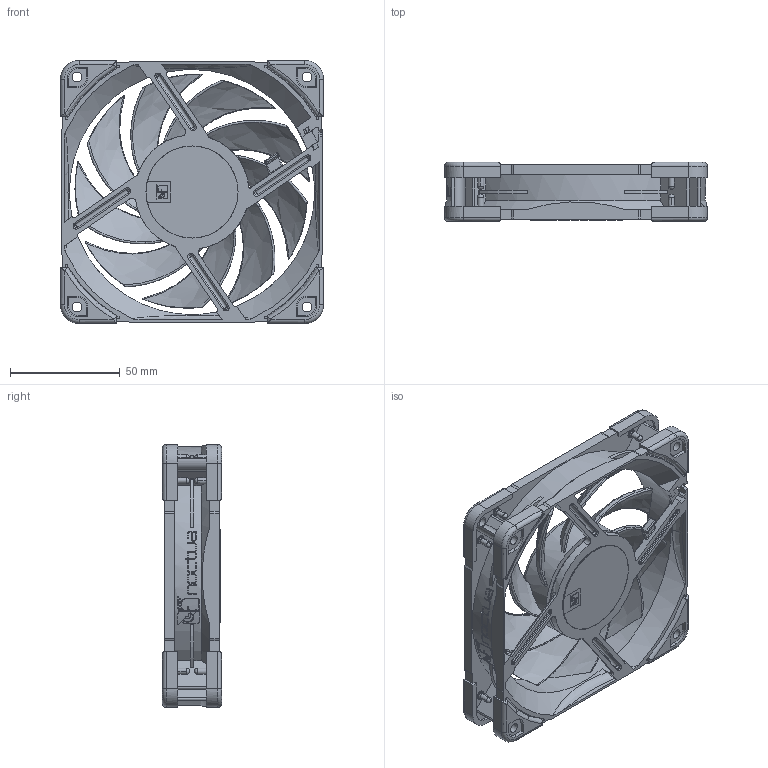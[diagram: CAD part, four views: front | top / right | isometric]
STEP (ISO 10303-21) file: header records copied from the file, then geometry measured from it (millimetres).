
FILE_DESCRIPTION(/* description */ ('140mm Desk Fan'),/* implementation_level */ '2;1');
FILE_NAME(/* name */ 'NF-A12x25_Chromax_Public-CAD',/* time_stamp */ '2026-04-13T09:22:01+02:00',/* author */ ('Andreas'),/* organization */ ('Rascom'),/* preprocessor_version */ 'ST-DEVELOPER v18.102',/* originating_system */ 'Solid Edge',/* authorisation */ 'Unknown');
FILE_SCHEMA (('AUTOMOTIVE_DESIGN {1 0 10303 214 3 1 1}'));
Products named in the file (6): NF-A12x25_Chromax_Public-CAD; NF-A12x25_Public-CAD; NF-A12x25_Frame-Public; NA-AVP1; NF-A12x25_Impeller-Chromax-Public; Fan-Label-D42mm-Chromax
Assembly tree (12 placements, depth 3):
  NF-A12x25_Chromax_Public-CAD
    NF-A12x25_Public-CAD
      NF-A12x25_Frame-Public
      NA-AVP1  x8
    NF-A12x25_Impeller-Chromax-Public
    Fan-Label-D42mm-Chromax
Bounding box: 120 x 27 x 120 mm (x, y, z)
Volume: 119214.2 mm3; surface area: 84704 mm2
Topology: 11 solids, 11 shells, 1425 faces, 3774 edges, 2452 vertices
Faces by surface type: plane 547, cylinder 527, bspline 153, torus 89, cone 65, sphere 44
Full cylindrical faces by diameter (mm): 3 x16, 4.3 x8, 42 x2, 52 x1, 112 x1
Entity records: 46804 total; most frequent: CARTESIAN_POINT 23008, ORIENTED_EDGE 5230, DIRECTION 4213, EDGE_CURVE 2615, VERTEX_POINT 1722, AXIS2_PLACEMENT_3D 1557, EDGE_LOOP 1141, FACE_BOUND 1141
